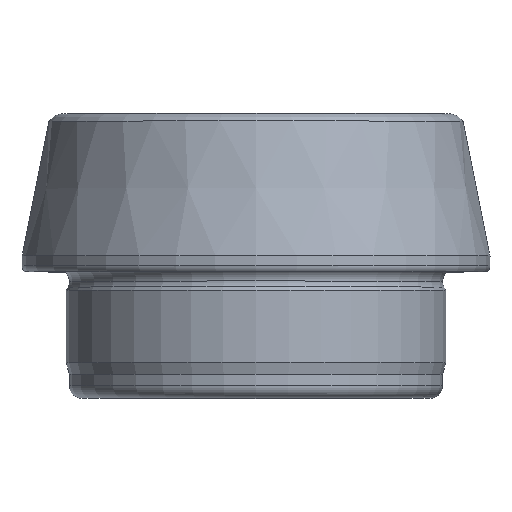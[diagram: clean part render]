
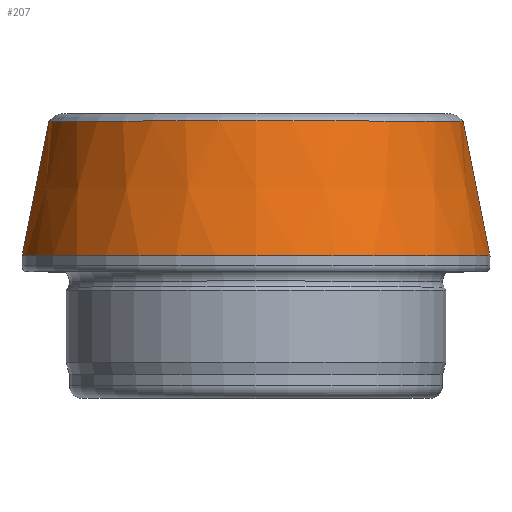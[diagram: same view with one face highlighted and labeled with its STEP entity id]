
A CAD part, top view. The second image highlights one B-rep face of the part: STEP entity #207.
In plain terms, the highlighted conical face has half-angle 11.31 degrees and reference radius 200.001 mm.
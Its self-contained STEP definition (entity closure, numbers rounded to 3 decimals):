
#8 = CARTESIAN_POINT ( 'NONE',  ( 0., 4.5, 0. ) ) ;
#9 = EDGE_CURVE ( 'NONE', #192, #335, #652, .T. ) ;
#11 = EDGE_LOOP ( 'NONE', ( #1009, #704, #63, #916 ) ) ;
#33 = LINE ( 'NONE', #928, #613 ) ;
#50 = DIRECTION ( 'NONE',  ( 1., 0., 0. ) ) ;
#63 = ORIENTED_EDGE ( 'NONE', *, *, #9, .T. ) ;
#76 = AXIS2_PLACEMENT_3D ( 'NONE', #114, #1000, #887 ) ;
#84 = EDGE_CURVE ( 'NONE', #969, #335, #563, .T. ) ;
#99 = EDGE_CURVE ( 'NONE', #955, #969, #954, .T. ) ;
#114 = CARTESIAN_POINT ( 'NONE',  ( 0., 8.76, 0. ) ) ;
#178 = DIRECTION ( 'NONE',  ( 0., -1., 0. ) ) ;
#192 = VERTEX_POINT ( 'NONE', #590 ) ;
#207 = ADVANCED_FACE ( 'NONE', ( #848 ), #332, .T. ) ;
#252 = EDGE_CURVE ( 'NONE', #955, #192, #33, .T. ) ;
#306 = CARTESIAN_POINT ( 'NONE',  ( 0., -958.5, 0. ) ) ;
#332 = CONICAL_SURFACE ( 'NONE', #765, 200.001, 0.197 ) ;
#335 = VERTEX_POINT ( 'NONE', #631 ) ;
#370 = DIRECTION ( 'NONE',  ( 0.196, -0.981, 0. ) ) ;
#468 = CARTESIAN_POINT ( 'NONE',  ( 0., 41.5, 0. ) ) ;
#558 = AXIS2_PLACEMENT_3D ( 'NONE', #8, #904, #808 ) ;
#563 = LINE ( 'NONE', #468, #883 ) ;
#590 = CARTESIAN_POINT ( 'NONE',  ( -7.4, 4.5, 0. ) ) ;
#613 = VECTOR ( 'NONE', #836, 1000. ) ;
#631 = CARTESIAN_POINT ( 'NONE',  ( 7.4, 4.5, 0. ) ) ;
#652 = CIRCLE ( 'NONE', #558, 7.4 ) ;
#704 = ORIENTED_EDGE ( 'NONE', *, *, #252, .T. ) ;
#752 = CARTESIAN_POINT ( 'NONE',  ( -6.548, 8.76, 0. ) ) ;
#765 = AXIS2_PLACEMENT_3D ( 'NONE', #306, #178, #50 ) ;
#808 = DIRECTION ( 'NONE',  ( 1., 0., 0. ) ) ;
#836 = DIRECTION ( 'NONE',  ( -0.196, -0.981, 0. ) ) ;
#848 = FACE_OUTER_BOUND ( 'NONE', #11, .T. ) ;
#883 = VECTOR ( 'NONE', #370, 1000. ) ;
#887 = DIRECTION ( 'NONE',  ( 1., 0., 0. ) ) ;
#904 = DIRECTION ( 'NONE',  ( 0., 1., 0. ) ) ;
#916 = ORIENTED_EDGE ( 'NONE', *, *, #84, .F. ) ;
#928 = CARTESIAN_POINT ( 'NONE',  ( 0., 41.5, 0. ) ) ;
#954 = CIRCLE ( 'NONE', #76, 6.548 ) ;
#955 = VERTEX_POINT ( 'NONE', #752 ) ;
#962 = CARTESIAN_POINT ( 'NONE',  ( 6.548, 8.76, 0. ) ) ;
#969 = VERTEX_POINT ( 'NONE', #962 ) ;
#1000 = DIRECTION ( 'NONE',  ( 0., 1., 0. ) ) ;
#1009 = ORIENTED_EDGE ( 'NONE', *, *, #99, .F. ) ;
